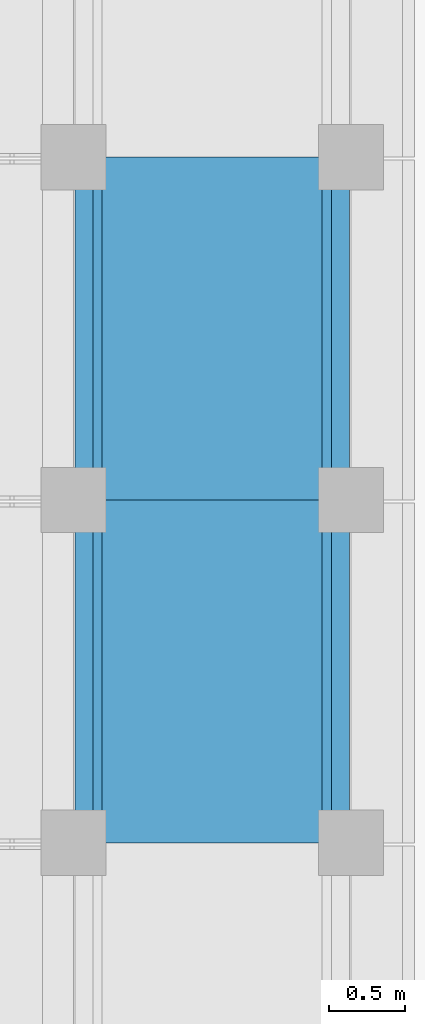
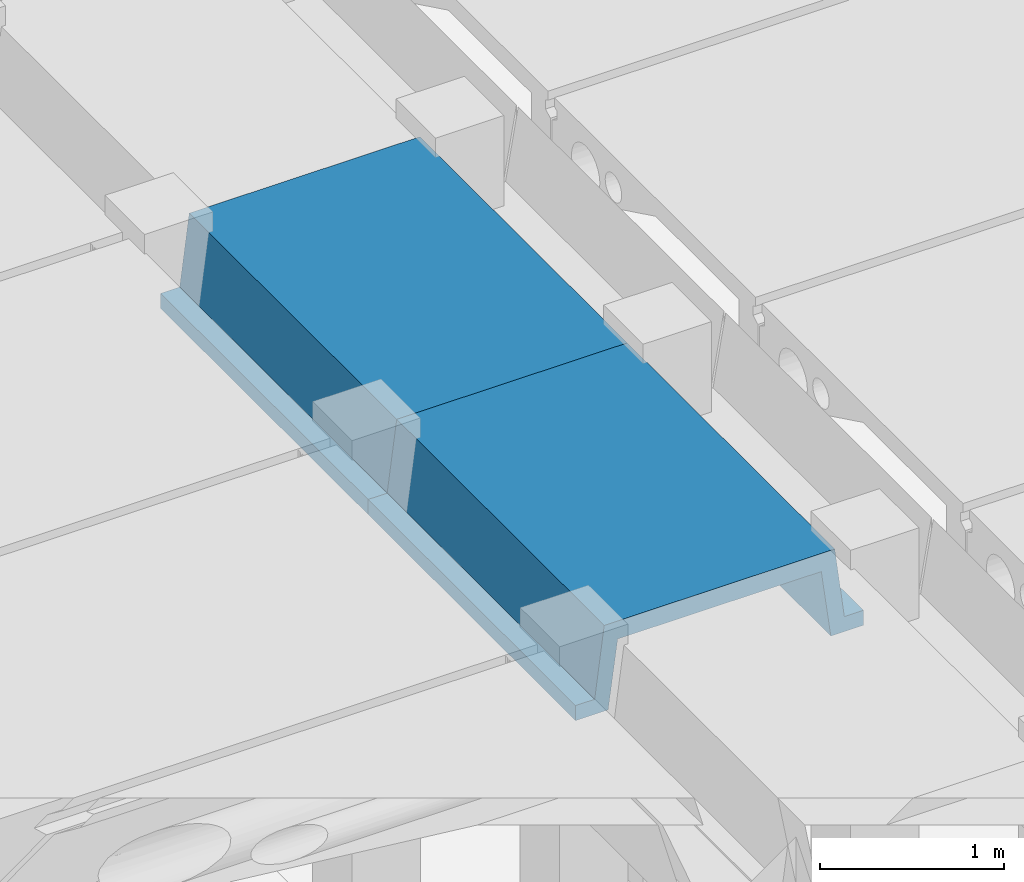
# One storey, part 16 of 25: 2 beams.
"""IFC2X3 building model written with IfcOpenShell, lengths in millimetres."""

from ifc_helpers import new_model, entity, si_unit, converted_unit, derived_unit, direction, frame, origin, place, context, subcontext, project, spatial, polyline, outline, extrude, material, type_object, element, save


model = new_model("IFC2X3")

# Units and contexts
model_context = context("Model", 3, precision=0.01, world=origin(), true_north=direction((6.12303176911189e-17, 1.0)))
body_context = subcontext(model_context, "Body", "Model", "MODEL_VIEW")
ifc_project = project(units=[si_unit("LENGTHUNIT", "METRE", prefix="MILLI"), si_unit("AREAUNIT", "SQUARE_METRE"), si_unit("VOLUMEUNIT", "CUBIC_METRE"), converted_unit("PLANEANGLEUNIT", "DEGREE", entity("IfcRatioMeasure", 0.0174532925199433), si_unit("PLANEANGLEUNIT", "RADIAN"), dimensions=[0, 0, 0, 0, 0, 0, 0]), si_unit("MASSUNIT", "GRAM", prefix="KILO"), derived_unit("MASSDENSITYUNIT", [(si_unit("MASSUNIT", "GRAM", prefix="KILO"), 1), (si_unit("LENGTHUNIT", "METRE"), -3)]), derived_unit("MOMENTOFINERTIAUNIT", [(si_unit("LENGTHUNIT", "METRE"), 4)]), si_unit("TIMEUNIT", "SECOND"), si_unit("FREQUENCYUNIT", "HERTZ"), si_unit("THERMODYNAMICTEMPERATUREUNIT", "DEGREE_CELSIUS"), derived_unit("THERMALTRANSMITTANCEUNIT", [(si_unit("MASSUNIT", "GRAM", prefix="KILO"), 1), (si_unit("THERMODYNAMICTEMPERATUREUNIT", "KELVIN"), -1), (si_unit("TIMEUNIT", "SECOND"), -3)]), derived_unit("VOLUMETRICFLOWRATEUNIT", [(si_unit("LENGTHUNIT", "METRE"), 3), (si_unit("TIMEUNIT", "SECOND"), -1)]), si_unit("ELECTRICCURRENTUNIT", "AMPERE"), si_unit("ELECTRICVOLTAGEUNIT", "VOLT"), si_unit("POWERUNIT", "WATT"), si_unit("FORCEUNIT", "NEWTON", prefix="KILO"), si_unit("ILLUMINANCEUNIT", "LUX"), si_unit("LUMINOUSFLUXUNIT", "LUMEN"), si_unit("LUMINOUSINTENSITYUNIT", "CANDELA"), derived_unit("USERDEFINED", [(si_unit("MASSUNIT", "GRAM", prefix="KILO"), -1), (si_unit("LENGTHUNIT", "METRE"), -2), (si_unit("TIMEUNIT", "SECOND"), 3), (si_unit("LUMINOUSFLUXUNIT", "LUMEN"), 1)]), derived_unit("LINEARVELOCITYUNIT", [(si_unit("LENGTHUNIT", "METRE"), 1), (si_unit("TIMEUNIT", "SECOND"), -1)]), si_unit("PRESSUREUNIT", "PASCAL"), derived_unit("USERDEFINED", [(si_unit("LENGTHUNIT", "METRE"), -2), (si_unit("MASSUNIT", "GRAM", prefix="KILO"), 1), (si_unit("TIMEUNIT", "SECOND"), -2)]), derived_unit("LINEARFORCEUNIT", [(si_unit("MASSUNIT", "GRAM", prefix="KILO"), 1), (si_unit("LENGTHUNIT", "METRE"), 1), (si_unit("TIMEUNIT", "SECOND"), -2), (si_unit("LENGTHUNIT", "METRE"), -1)]), derived_unit("PLANARFORCEUNIT", [(si_unit("MASSUNIT", "GRAM", prefix="KILO"), 1), (si_unit("LENGTHUNIT", "METRE"), 1), (si_unit("TIMEUNIT", "SECOND"), -2), (si_unit("LENGTHUNIT", "METRE"), -2)])], contexts=[model_context])

# Site, building, storey
site_placement = place(None, frame((10627.5135316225, 21939.0796949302, 0.0)))
site = spatial("IfcSite", under=ifc_project, at=site_placement, Name="Default", CompositionType="ELEMENT")
building_placement = place(site_placement, origin())
building = spatial("IfcBuilding", under=site, at=building_placement, CompositionType="ELEMENT")
storey_placement = place(building_placement, origin())
storey = spatial("IfcBuildingStorey", under=building, at=storey_placement, Name="RDC", CompositionType="ELEMENT", Elevation=0.0)

# Beams
ifc_material = material(Name="Concrete, Precast Smooth, Light Grey")
beam_type = type_object("IfcBeamType", Name="Poutre petite:Poutre petite", PredefinedType="NOTDEFINED")
for number, where, z_axis, x_axis, name in (
    (1, (52487.4864683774, -3859.07969493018, 3530.0), (0.0, 0.0, 1.0), (0.0, 1.0, 0.0), "Poutre petite:Poutre petite"),
    (2, (52487.4864683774, -6119.07969493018, 3530.0), (0.0, 0.0, 1.0), (0.0, 1.0, 0.0), "Poutre petite:Poutre petite"),
):
    element("IfcBeam", number, at=place(storey_placement, frame(where, z_axis=z_axis, x_axis=x_axis)), inside=storey, type_object=beam_type, material=ifc_material, Name=name, ObjectType="Poutre petite:Poutre petite", context=body_context, shape_type="SweptSolid", body=[
        extrude(outline(polyline([(103.333217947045, -905.014058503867), (203.333564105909, -905.014058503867), (203.333564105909, -700.0135432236), (-246.666782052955, -640.013497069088), (-246.666782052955, 640.013684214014), (203.333564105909, 700.013730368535), (203.333564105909, 905.013684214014), (103.333217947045, 905.013684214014), (103.333217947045, 785.013684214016), (-366.666782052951, 725.01368421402), (-366.666782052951, -725.013497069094), (103.333217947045, -785.013497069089), (103.333217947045, -905.014058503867)])), frame((0.0, 0.000187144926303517, -366.666782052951), z_axis=(1.0, 0.0, 0.0), x_axis=(0.0, 0.0, -1.0)), (0.0, 0.0, 1.0), 2260.0),
    ])

save(model, "model.ifc")
